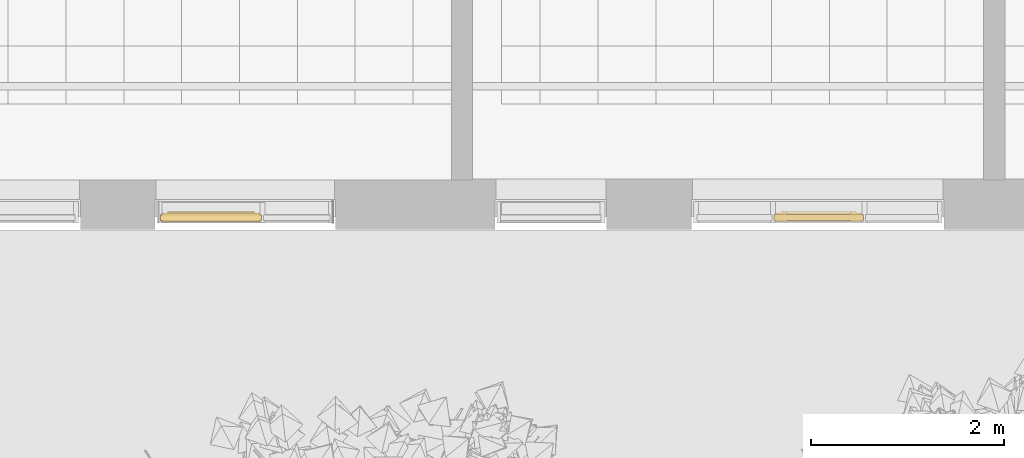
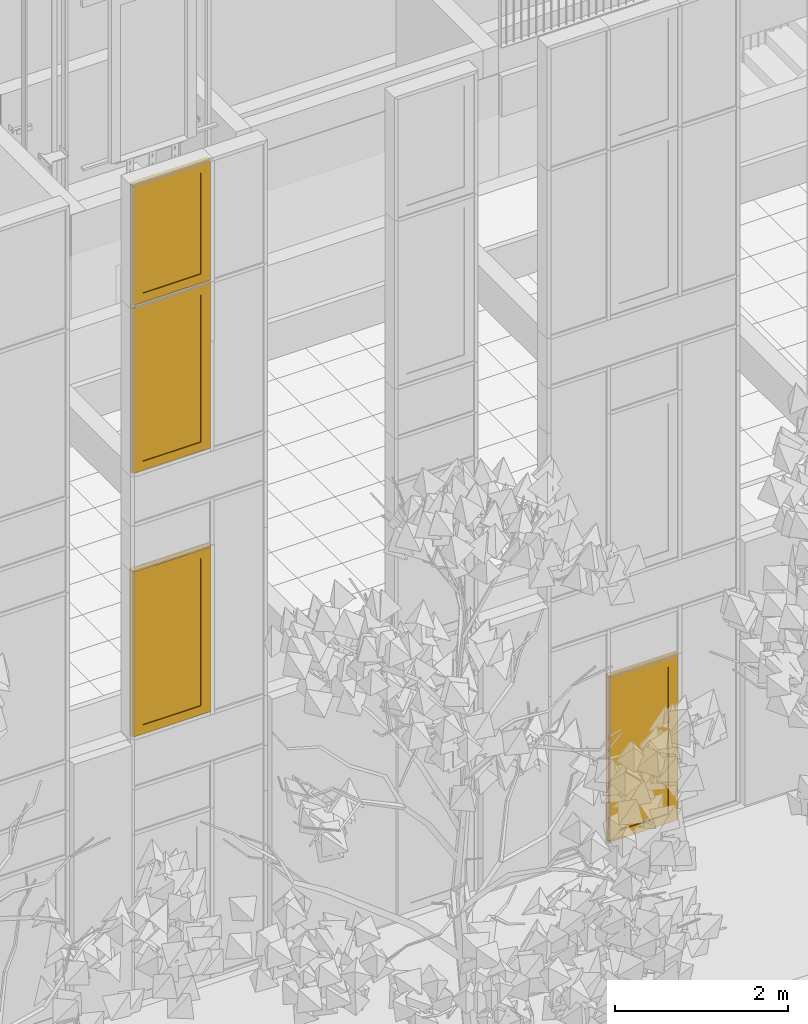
# One storey, part 145 of 246: 4 windows, 2 elements without a shape of their own.
"""IFC2X3 building model written with IfcOpenShell, lengths in millimetres."""

from ifc_helpers import new_model, entity, si_unit, converted_unit, derived_unit, money_unit, direction, frame, origin_with_axes, place, context, subcontext, project, spatial, open_shell, faceted_brep, surface_model, source, transform, mapped, material, material_list, type_object, element, aggregate, save


model = new_model("IFC2X3")

# Units and contexts
model_context = context("Model", 3, precision=0.01, world=origin_with_axes(), true_north=direction((0.0, 1.0)))
body_context = subcontext(model_context, "Body", "Model", "MODEL_VIEW")
ifc_project = project(units=[si_unit("LENGTHUNIT", "METRE", prefix="MILLI"), si_unit("AREAUNIT", "SQUARE_METRE"), si_unit("VOLUMEUNIT", "CUBIC_METRE"), converted_unit("PLANEANGLEUNIT", "DEGREE", entity("IfcPlaneAngleMeasure", 0.0174532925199), si_unit("PLANEANGLEUNIT", "RADIAN"), dimensions=[0, 0, 0, 0, 0, 0, 0]), si_unit("SOLIDANGLEUNIT", "STERADIAN"), money_unit("EUR"), converted_unit("TIMEUNIT", "Year", entity("IfcTimeMeasure", 31556926.0), si_unit("TIMEUNIT", "SECOND"), dimensions=[0, 0, 1, 0, 0, 0, 0]), si_unit("MASSUNIT", "GRAM", prefix="KILO"), si_unit("THERMODYNAMICTEMPERATUREUNIT", "DEGREE_CELSIUS"), si_unit("LUMINOUSINTENSITYUNIT", "LUMEN"), si_unit("ENERGYUNIT", "JOULE", prefix="MEGA"), derived_unit("THERMALCONDUCTANCEUNIT", [(si_unit("POWERUNIT", "WATT"), 1), (si_unit("LENGTHUNIT", "METRE"), -1), (si_unit("THERMODYNAMICTEMPERATUREUNIT", "KELVIN"), -1)]), derived_unit("SPECIFICHEATCAPACITYUNIT", [(si_unit("ENERGYUNIT", "JOULE"), 1), (si_unit("MASSUNIT", "GRAM", prefix="KILO"), -1), (si_unit("THERMODYNAMICTEMPERATUREUNIT", "KELVIN"), -1)]), derived_unit("MASSDENSITYUNIT", [(si_unit("MASSUNIT", "GRAM", prefix="KILO"), 1), (si_unit("VOLUMEUNIT", "CUBIC_METRE"), -1)])], contexts=[model_context])

# Site, building, storey
site_placement = place(None, origin_with_axes())
site = spatial("IfcSite", under=ifc_project, at=site_placement, Name="L.Koidula tn 11b", CompositionType="ELEMENT")
building_placement = place(site_placement, origin_with_axes())
building = spatial("IfcBuilding", under=site, at=building_placement, Name="Rakvere Riigigümnaasium", CompositionType="ELEMENT")
storey_placement = place(building_placement, origin_with_axes())
storey = spatial("IfcBuildingStorey", under=building, at=storey_placement, Name="1.korrus 0,00", CompositionType="ELEMENT", Elevation=0.0)

# Curtain wall, windows
curtain_wall_type = type_object("IfcCurtainWallType", Name="Curtain Wall Type", PredefinedType="NOTDEFINED")
curtain_wall_1_placement = place(storey_placement, frame((42948.5002114, 5111.45334637, -8.09717250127e-06), z_axis=(0.0, 0.0, 1.0), x_axis=(1.0, 0.0, 0.0)))
curtain_wall_1 = element("IfcCurtainWall", 1, at=curtain_wall_1_placement, inside=storey, type_object=curtain_wall_type, Name="KLF-05-2A")
ifc_material_1 = material(Name="Alumiiniumprofiil (RAL 7021)")
ifc_material_2 = material(Name="Klaaspakett 3x ribikardinatega")
ifc_material_list = material_list([ifc_material_1, ifc_material_2])
window_style_1 = type_object("IfcWindowStyle", Name="1046 x 2351 x 65", ConstructionType="NOTDEFINED", OperationType="NOTDEFINED", ParameterTakesPrecedence=False, Sizeable=False)
shared_shape_1 = source(origin_with_axes(), body_context, "Body", "SurfaceModel", [
    surface_model("IfcShellBasedSurfaceModel", [(50.0000055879, 24.9999850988, 43.5), (109.000005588, 83.9999850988, 43.5), (1010.9999851, 83.9999850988, 43.5), (1069.9999851, 24.9999850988, 43.5)], [open_shell([[[0, 1, 2, 3]]])]),
    surface_model("IfcShellBasedSurfaceModel", [(1069.9999851, 24.9999850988, 43.5), (1010.9999851, 83.9999850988, 43.5), (1010.9999851, 2291.0000149, 43.5), (1069.9999851, 2350.0000149, 43.5)], [open_shell([[[0, 1, 2, 3]]])]),
    surface_model("IfcShellBasedSurfaceModel", [(50.0000055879, 2350.0000149, 43.5), (1069.9999851, 2350.0000149, 43.5), (1010.9999851, 2291.0000149, 43.5), (109.000005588, 2291.0000149, 43.5)], [open_shell([[[0, 1, 2, 3]]])]),
    surface_model("IfcShellBasedSurfaceModel", [(50.0000055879, 24.9999850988, 43.5), (50.0000055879, 2350.0000149, 43.5), (109.000005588, 2291.0000149, 43.5), (109.000005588, 83.9999850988, 43.5)], [open_shell([[[0, 1, 2, 3]]])]),
    faceted_brep([(50.0000055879, 24.9999850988, -45.5), (1069.9999851, 24.9999850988, -45.5), (1069.9999851, 24.9999850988, 43.5), (50.0000055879, 24.9999850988, 43.5), (109.000005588, 83.9999850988, -45.5), (1010.9999851, 83.9999850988, -45.5), (1010.9999851, 83.9999850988, 43.5), (109.000005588, 83.9999850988, 43.5)], [[[0, 1, 2, 3]], [[0, 4, 5, 1]], [[1, 5, 6, 2]], [[3, 2, 6, 7]], [[4, 0, 3, 7]], [[5, 4, 7, 6]]]),
    faceted_brep([(1069.9999851, 24.9999850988, -45.5), (1069.9999851, 2350.0000149, -45.5), (1069.9999851, 2350.0000149, 43.5), (1069.9999851, 24.9999850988, 43.5), (1010.9999851, 83.9999850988, -45.5), (1010.9999851, 2291.0000149, -45.5), (1010.9999851, 2291.0000149, 43.5), (1010.9999851, 83.9999850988, 43.5)], [[[0, 1, 2, 3]], [[0, 4, 5, 1]], [[1, 5, 6, 2]], [[3, 2, 6, 7]], [[4, 0, 3, 7]], [[5, 4, 7, 6]]]),
    faceted_brep([(50.0000055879, 2350.0000149, -45.5), (109.000005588, 2291.0000149, -45.5), (109.000005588, 2291.0000149, 43.5), (50.0000055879, 2350.0000149, 43.5), (1069.9999851, 2350.0000149, -45.5), (1010.9999851, 2291.0000149, -45.5), (1010.9999851, 2291.0000149, 43.5), (1069.9999851, 2350.0000149, 43.5)], [[[0, 1, 2, 3]], [[0, 4, 5, 1]], [[1, 5, 6, 2]], [[3, 2, 6, 7]], [[4, 0, 3, 7]], [[5, 4, 7, 6]]]),
    faceted_brep([(50.0000055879, 24.9999850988, -45.5), (109.000005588, 83.9999850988, -45.5), (109.000005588, 83.9999850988, 43.5), (50.0000055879, 24.9999850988, 43.5), (50.0000055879, 2350.0000149, -45.5), (109.000005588, 2291.0000149, -45.5), (109.000005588, 2291.0000149, 43.5), (50.0000055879, 2350.0000149, 43.5)], [[[0, 1, 2, 3]], [[0, 4, 5, 1]], [[1, 5, 6, 2]], [[3, 2, 6, 7]], [[4, 0, 3, 7]], [[5, 4, 7, 6]]]),
    faceted_brep([(36.9999836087, 11.9999985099, -32.5), (1083.00000708, 11.9999985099, -32.5), (1083.00000708, 11.9999985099, 32.5), (36.9999836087, 11.9999985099, 32.5), (50.0000055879, 24.9999850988, -32.5), (1069.9999851, 24.9999850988, -32.5), (1069.9999851, 24.9999850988, 32.5), (50.0000055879, 24.9999850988, 32.5)], [[[0, 1, 2, 3]], [[0, 4, 5, 1]], [[1, 5, 6, 2]], [[3, 2, 6, 7]], [[4, 0, 3, 7]], [[5, 4, 7, 6]]]),
    faceted_brep([(1083.00000708, 11.9999985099, -32.5), (1083.00000708, 2363.00000149, -32.5), (1083.00000708, 2363.00000149, 32.5), (1083.00000708, 11.9999985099, 32.5), (1069.9999851, 24.9999850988, -32.5), (1069.9999851, 2350.0000149, -32.5), (1069.9999851, 2350.0000149, 32.5), (1069.9999851, 24.9999850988, 32.5)], [[[0, 1, 2, 3]], [[0, 4, 5, 1]], [[1, 5, 6, 2]], [[3, 2, 6, 7]], [[4, 0, 3, 7]], [[5, 4, 7, 6]]]),
    faceted_brep([(1083.00000708, 2363.00000149, -32.5), (36.9999836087, 2363.00000149, -32.5), (36.9999836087, 2363.00000149, 32.5), (1083.00000708, 2363.00000149, 32.5), (1069.9999851, 2350.0000149, -32.5), (50.0000055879, 2350.0000149, -32.5), (50.0000055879, 2350.0000149, 32.5), (1069.9999851, 2350.0000149, 32.5)], [[[0, 1, 2, 3]], [[0, 4, 5, 1]], [[1, 5, 6, 2]], [[3, 2, 6, 7]], [[4, 0, 3, 7]], [[5, 4, 7, 6]]]),
    faceted_brep([(36.9999836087, 2363.00000149, -32.5), (36.9999836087, 11.9999985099, -32.5), (36.9999836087, 11.9999985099, 32.5), (36.9999836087, 2363.00000149, 32.5), (50.0000055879, 2350.0000149, -32.5), (50.0000055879, 24.9999850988, -32.5), (50.0000055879, 24.9999850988, 32.5), (50.0000055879, 2350.0000149, 32.5)], [[[0, 1, 2, 3]], [[0, 4, 5, 1]], [[1, 5, 6, 2]], [[3, 2, 6, 7]], [[4, 0, 3, 7]], [[5, 4, 7, 6]]]),
    faceted_brep([(172.000005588, 146.999985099, 43.5), (172.000005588, 146.999985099, -56.5), (172.000005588, 2228.0000149, -56.5), (172.000005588, 2228.0000149, 43.5), (109.000005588, 83.9999850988, 43.5), (109.000005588, 83.9999850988, -56.5), (109.000005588, 2291.0000149, -56.5), (109.000005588, 2291.0000149, 43.5)], [[[0, 1, 2, 3]], [[4, 5, 1, 0]], [[1, 5, 6, 2]], [[3, 2, 6, 7]], [[0, 3, 7, 4]], [[7, 6, 5, 4]]]),
    faceted_brep([(1010.9999851, 83.9999850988, 43.5), (1010.9999851, 83.9999850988, -56.5), (1010.9999851, 2291.0000149, -56.5), (1010.9999851, 2291.0000149, 43.5), (947.999985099, 146.999985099, 43.5), (947.999985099, 146.999985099, -56.5), (947.999985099, 2228.0000149, -56.5), (947.999985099, 2228.0000149, 43.5)], [[[0, 1, 2, 3]], [[4, 5, 1, 0]], [[1, 5, 6, 2]], [[3, 2, 6, 7]], [[0, 3, 7, 4]], [[7, 6, 5, 4]]]),
    faceted_brep([(1010.9999851, 83.9999850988, 43.5), (1010.9999851, 83.9999850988, -56.5), (947.999985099, 146.999985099, -56.5), (947.999985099, 146.999985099, 43.5), (109.000005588, 83.9999850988, 43.5), (109.000005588, 83.9999850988, -56.5), (172.000005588, 146.999985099, -56.5), (172.000005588, 146.999985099, 43.5)], [[[0, 1, 2, 3]], [[4, 5, 1, 0]], [[1, 5, 6, 2]], [[3, 2, 6, 7]], [[0, 3, 7, 4]], [[7, 6, 5, 4]]]),
    faceted_brep([(109.000005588, 2291.0000149, 43.5), (109.000005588, 2291.0000149, -56.5), (172.000005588, 2228.0000149, -56.5), (172.000005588, 2228.0000149, 43.5), (1010.9999851, 2291.0000149, 43.5), (1010.9999851, 2291.0000149, -56.5), (947.999985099, 2228.0000149, -56.5), (947.999985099, 2228.0000149, 43.5)], [[[0, 1, 2, 3]], [[4, 5, 1, 0]], [[1, 5, 6, 2]], [[3, 2, 6, 7]], [[0, 3, 7, 4]], [[7, 6, 5, 4]]]),
    faceted_brep([(172.000005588, 146.999985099, 32.5), (172.000005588, 146.999985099, -32.5), (947.999985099, 146.999985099, -32.5), (947.999985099, 146.999985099, 32.5), (172.000005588, 2228.0000149, 32.5), (172.000005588, 2228.0000149, -32.5), (947.999985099, 2228.0000149, -32.5), (947.999985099, 2228.0000149, 32.5)], [[[0, 1, 2, 3]], [[4, 5, 1, 0]], [[1, 5, 6, 2]], [[3, 2, 6, 7]], [[0, 3, 7, 4]], [[7, 6, 5, 4]]]),
])
window_1_placement = place(curtain_wall_1_placement, frame((-582.333458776, 0.0, 4932.5), z_axis=(0.0, 0.0, 1.0), x_axis=(-1.0, 0.0, 0.0)))
window_1 = element("IfcWindow", 2, at=window_1_placement, type_object=window_style_1, material=ifc_material_list, Name="KLF-05-A-1", ObjectType="WINDOW", context=body_context, shape_type="MappedRepresentation", body=[
    mapped(shared_shape_1, transform((371.666628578, 0.0, -1187.5), x_axis=(-1.0, 0.0, 0.0), y_axis=(0.0, 0.0, 1.0), z_axis=(0.0, 1.0, 0.0))),
])
window_style_2 = type_object("IfcWindowStyle", Name="1046 x 2351 x 54", ConstructionType="NOTDEFINED", OperationType="NOTDEFINED", ParameterTakesPrecedence=False, Sizeable=False)
shared_shape_2 = source(origin_with_axes(), body_context, "Body", "SurfaceModel", [
    surface_model("IfcShellBasedSurfaceModel", [(50.0000055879, 24.9999850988, 38.0), (109.000005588, 83.9999850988, 38.0), (1010.9999851, 83.9999850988, 38.0), (1069.9999851, 24.9999850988, 38.0)], [open_shell([[[0, 1, 2, 3]]])]),
    surface_model("IfcShellBasedSurfaceModel", [(1069.9999851, 24.9999850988, 38.0), (1010.9999851, 83.9999850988, 38.0), (1010.9999851, 2291.0000149, 38.0), (1069.9999851, 2350.0000149, 38.0)], [open_shell([[[0, 1, 2, 3]]])]),
    surface_model("IfcShellBasedSurfaceModel", [(50.0000055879, 2350.0000149, 38.0), (1069.9999851, 2350.0000149, 38.0), (1010.9999851, 2291.0000149, 38.0), (109.000005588, 2291.0000149, 38.0)], [open_shell([[[0, 1, 2, 3]]])]),
    surface_model("IfcShellBasedSurfaceModel", [(50.0000055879, 24.9999850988, 38.0), (50.0000055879, 2350.0000149, 38.0), (109.000005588, 2291.0000149, 38.0), (109.000005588, 83.9999850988, 38.0)], [open_shell([[[0, 1, 2, 3]]])]),
    faceted_brep([(50.0000055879, 24.9999850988, -51.0), (1069.9999851, 24.9999850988, -51.0), (1069.9999851, 24.9999850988, 38.0), (50.0000055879, 24.9999850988, 38.0), (109.000005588, 83.9999850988, -51.0), (1010.9999851, 83.9999850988, -51.0), (1010.9999851, 83.9999850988, 38.0), (109.000005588, 83.9999850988, 38.0)], [[[0, 1, 2, 3]], [[0, 4, 5, 1]], [[1, 5, 6, 2]], [[3, 2, 6, 7]], [[4, 0, 3, 7]], [[5, 4, 7, 6]]]),
    faceted_brep([(1069.9999851, 24.9999850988, -51.0), (1069.9999851, 2350.0000149, -51.0), (1069.9999851, 2350.0000149, 38.0), (1069.9999851, 24.9999850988, 38.0), (1010.9999851, 83.9999850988, -51.0), (1010.9999851, 2291.0000149, -51.0), (1010.9999851, 2291.0000149, 38.0), (1010.9999851, 83.9999850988, 38.0)], [[[0, 1, 2, 3]], [[0, 4, 5, 1]], [[1, 5, 6, 2]], [[3, 2, 6, 7]], [[4, 0, 3, 7]], [[5, 4, 7, 6]]]),
    faceted_brep([(50.0000055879, 2350.0000149, -51.0), (109.000005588, 2291.0000149, -51.0), (109.000005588, 2291.0000149, 38.0), (50.0000055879, 2350.0000149, 38.0), (1069.9999851, 2350.0000149, -51.0), (1010.9999851, 2291.0000149, -51.0), (1010.9999851, 2291.0000149, 38.0), (1069.9999851, 2350.0000149, 38.0)], [[[0, 1, 2, 3]], [[0, 4, 5, 1]], [[1, 5, 6, 2]], [[3, 2, 6, 7]], [[4, 0, 3, 7]], [[5, 4, 7, 6]]]),
    faceted_brep([(50.0000055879, 24.9999850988, -51.0), (109.000005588, 83.9999850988, -51.0), (109.000005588, 83.9999850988, 38.0), (50.0000055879, 24.9999850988, 38.0), (50.0000055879, 2350.0000149, -51.0), (109.000005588, 2291.0000149, -51.0), (109.000005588, 2291.0000149, 38.0), (50.0000055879, 2350.0000149, 38.0)], [[[0, 1, 2, 3]], [[0, 4, 5, 1]], [[1, 5, 6, 2]], [[3, 2, 6, 7]], [[4, 0, 3, 7]], [[5, 4, 7, 6]]]),
    faceted_brep([(36.9999836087, 11.9999985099, -27.0), (1083.00000708, 11.9999985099, -27.0), (1083.00000708, 11.9999985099, 27.0), (36.9999836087, 11.9999985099, 27.0), (50.0000055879, 24.9999850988, -27.0), (1069.9999851, 24.9999850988, -27.0), (1069.9999851, 24.9999850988, 27.0), (50.0000055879, 24.9999850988, 27.0)], [[[0, 1, 2, 3]], [[0, 4, 5, 1]], [[1, 5, 6, 2]], [[3, 2, 6, 7]], [[4, 0, 3, 7]], [[5, 4, 7, 6]]]),
    faceted_brep([(1083.00000708, 11.9999985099, -27.0), (1083.00000708, 2363.00000149, -27.0), (1083.00000708, 2363.00000149, 27.0), (1083.00000708, 11.9999985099, 27.0), (1069.9999851, 24.9999850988, -27.0), (1069.9999851, 2350.0000149, -27.0), (1069.9999851, 2350.0000149, 27.0), (1069.9999851, 24.9999850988, 27.0)], [[[0, 1, 2, 3]], [[0, 4, 5, 1]], [[1, 5, 6, 2]], [[3, 2, 6, 7]], [[4, 0, 3, 7]], [[5, 4, 7, 6]]]),
    faceted_brep([(1083.00000708, 2363.00000149, -27.0), (36.9999836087, 2363.00000149, -27.0), (36.9999836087, 2363.00000149, 27.0), (1083.00000708, 2363.00000149, 27.0), (1069.9999851, 2350.0000149, -27.0), (50.0000055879, 2350.0000149, -27.0), (50.0000055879, 2350.0000149, 27.0), (1069.9999851, 2350.0000149, 27.0)], [[[0, 1, 2, 3]], [[0, 4, 5, 1]], [[1, 5, 6, 2]], [[3, 2, 6, 7]], [[4, 0, 3, 7]], [[5, 4, 7, 6]]]),
    faceted_brep([(36.9999836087, 2363.00000149, -27.0), (36.9999836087, 11.9999985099, -27.0), (36.9999836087, 11.9999985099, 27.0), (36.9999836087, 2363.00000149, 27.0), (50.0000055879, 2350.0000149, -27.0), (50.0000055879, 24.9999850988, -27.0), (50.0000055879, 24.9999850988, 27.0), (50.0000055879, 2350.0000149, 27.0)], [[[0, 1, 2, 3]], [[0, 4, 5, 1]], [[1, 5, 6, 2]], [[3, 2, 6, 7]], [[4, 0, 3, 7]], [[5, 4, 7, 6]]]),
    faceted_brep([(172.000005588, 146.999985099, 38.0), (172.000005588, 146.999985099, -62.0), (172.000005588, 2228.0000149, -62.0), (172.000005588, 2228.0000149, 38.0), (109.000005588, 83.9999850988, 38.0), (109.000005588, 83.9999850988, -62.0), (109.000005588, 2291.0000149, -62.0), (109.000005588, 2291.0000149, 38.0)], [[[0, 1, 2, 3]], [[4, 5, 1, 0]], [[1, 5, 6, 2]], [[3, 2, 6, 7]], [[0, 3, 7, 4]], [[7, 6, 5, 4]]]),
    faceted_brep([(1010.9999851, 83.9999850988, 38.0), (1010.9999851, 83.9999850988, -62.0), (1010.9999851, 2291.0000149, -62.0), (1010.9999851, 2291.0000149, 38.0), (947.999985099, 146.999985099, 38.0), (947.999985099, 146.999985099, -62.0), (947.999985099, 2228.0000149, -62.0), (947.999985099, 2228.0000149, 38.0)], [[[0, 1, 2, 3]], [[4, 5, 1, 0]], [[1, 5, 6, 2]], [[3, 2, 6, 7]], [[0, 3, 7, 4]], [[7, 6, 5, 4]]]),
    faceted_brep([(1010.9999851, 83.9999850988, 38.0), (1010.9999851, 83.9999850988, -62.0), (947.999985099, 146.999985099, -62.0), (947.999985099, 146.999985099, 38.0), (109.000005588, 83.9999850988, 38.0), (109.000005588, 83.9999850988, -62.0), (172.000005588, 146.999985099, -62.0), (172.000005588, 146.999985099, 38.0)], [[[0, 1, 2, 3]], [[4, 5, 1, 0]], [[1, 5, 6, 2]], [[3, 2, 6, 7]], [[0, 3, 7, 4]], [[7, 6, 5, 4]]]),
    faceted_brep([(109.000005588, 2291.0000149, 38.0), (109.000005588, 2291.0000149, -62.0), (172.000005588, 2228.0000149, -62.0), (172.000005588, 2228.0000149, 38.0), (1010.9999851, 2291.0000149, 38.0), (1010.9999851, 2291.0000149, -62.0), (947.999985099, 2228.0000149, -62.0), (947.999985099, 2228.0000149, 38.0)], [[[0, 1, 2, 3]], [[4, 5, 1, 0]], [[1, 5, 6, 2]], [[3, 2, 6, 7]], [[0, 3, 7, 4]], [[7, 6, 5, 4]]]),
    faceted_brep([(172.000005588, 146.999985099, 27.0), (172.000005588, 146.999985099, 11.0), (947.999985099, 146.999985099, 11.0), (947.999985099, 146.999985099, 27.0), (172.000005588, 2228.0000149, 27.0), (172.000005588, 2228.0000149, 11.0), (947.999985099, 2228.0000149, 11.0), (947.999985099, 2228.0000149, 27.0)], [[[0, 1, 2, 3]], [[4, 5, 1, 0]], [[1, 5, 6, 2]], [[3, 2, 6, 7]], [[0, 3, 7, 4]], [[7, 6, 5, 4]]]),
])
window_2_placement = place(curtain_wall_1_placement, frame((-403.166773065, 0.0, 8512.5), z_axis=(0.0, 0.0, 1.0), x_axis=(-1.0, 0.0, 0.0)))
window_2 = element("IfcWindow", 3, at=window_2_placement, type_object=window_style_2, material=ifc_material_list, Name="KLF-05-A-1", ObjectType="WINDOW", context=body_context, shape_type="MappedRepresentation", body=[
    mapped(shared_shape_2, transform((550.833314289, 0.0, -1047.5), x_axis=(-1.0, 0.0, 0.0), y_axis=(0.0, 0.0, 1.0), z_axis=(0.0, 1.0, 0.0))),
])
window_style_3 = type_object("IfcWindowStyle", Name="1046 x 1701 x 54", ConstructionType="NOTDEFINED", OperationType="NOTDEFINED", ParameterTakesPrecedence=False, Sizeable=False)
shared_shape_3 = source(origin_with_axes(), body_context, "Body", "SurfaceModel", [
    surface_model("IfcShellBasedSurfaceModel", [(49.9999937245, 24.9999968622, 38.0), (108.999993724, 83.9999968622, 38.0), (1011.00000652, 83.9999968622, 38.0), (1070.00000652, 24.9999968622, 38.0)], [open_shell([[[0, 1, 2, 3]]])]),
    surface_model("IfcShellBasedSurfaceModel", [(1070.00000652, 24.9999968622, 38.0), (1011.00000652, 83.9999968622, 38.0), (1011.00000652, 1641.0000474, 38.0), (1070.00000652, 1700.0000474, 38.0)], [open_shell([[[0, 1, 2, 3]]])]),
    surface_model("IfcShellBasedSurfaceModel", [(49.9999937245, 1700.0000474, 38.0), (1070.00000652, 1700.0000474, 38.0), (1011.00000652, 1641.0000474, 38.0), (108.999993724, 1641.0000474, 38.0)], [open_shell([[[0, 1, 2, 3]]])]),
    surface_model("IfcShellBasedSurfaceModel", [(49.9999937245, 24.9999968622, 38.0), (49.9999937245, 1700.0000474, 38.0), (108.999993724, 1641.0000474, 38.0), (108.999993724, 83.9999968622, 38.0)], [open_shell([[[0, 1, 2, 3]]])]),
    faceted_brep([(49.9999937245, 24.9999968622, -51.0), (1070.00000652, 24.9999968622, -51.0), (1070.00000652, 24.9999968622, 38.0), (49.9999937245, 24.9999968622, 38.0), (108.999993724, 83.9999968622, -51.0), (1011.00000652, 83.9999968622, -51.0), (1011.00000652, 83.9999968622, 38.0), (108.999993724, 83.9999968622, 38.0)], [[[0, 1, 2, 3]], [[0, 4, 5, 1]], [[1, 5, 6, 2]], [[3, 2, 6, 7]], [[4, 0, 3, 7]], [[5, 4, 7, 6]]]),
    faceted_brep([(1070.00000652, 24.9999968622, -51.0), (1070.00000652, 1700.0000474, -51.0), (1070.00000652, 1700.0000474, 38.0), (1070.00000652, 24.9999968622, 38.0), (1011.00000652, 83.9999968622, -51.0), (1011.00000652, 1641.0000474, -51.0), (1011.00000652, 1641.0000474, 38.0), (1011.00000652, 83.9999968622, 38.0)], [[[0, 1, 2, 3]], [[0, 4, 5, 1]], [[1, 5, 6, 2]], [[3, 2, 6, 7]], [[4, 0, 3, 7]], [[5, 4, 7, 6]]]),
    faceted_brep([(49.9999937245, 1700.0000474, -51.0), (108.999993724, 1641.0000474, -51.0), (108.999993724, 1641.0000474, 38.0), (49.9999937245, 1700.0000474, 38.0), (1070.00000652, 1700.0000474, -51.0), (1011.00000652, 1641.0000474, -51.0), (1011.00000652, 1641.0000474, 38.0), (1070.00000652, 1700.0000474, 38.0)], [[[0, 1, 2, 3]], [[0, 4, 5, 1]], [[1, 5, 6, 2]], [[3, 2, 6, 7]], [[4, 0, 3, 7]], [[5, 4, 7, 6]]]),
    faceted_brep([(49.9999937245, 24.9999968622, -51.0), (108.999993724, 83.9999968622, -51.0), (108.999993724, 83.9999968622, 38.0), (49.9999937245, 24.9999968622, 38.0), (49.9999937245, 1700.0000474, -51.0), (108.999993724, 1641.0000474, -51.0), (108.999993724, 1641.0000474, 38.0), (49.9999937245, 1700.0000474, 38.0)], [[[0, 1, 2, 3]], [[0, 4, 5, 1]], [[1, 5, 6, 2]], [[3, 2, 6, 7]], [[4, 0, 3, 7]], [[5, 4, 7, 6]]]),
    faceted_brep([(37.00000683, 12.0000099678, -27.0), (1082.99999341, 12.0000099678, -27.0), (1082.99999341, 12.0000099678, 27.0), (37.00000683, 12.0000099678, 27.0), (49.9999937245, 24.9999968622, -27.0), (1070.00000652, 24.9999968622, -27.0), (1070.00000652, 24.9999968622, 27.0), (49.9999937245, 24.9999968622, 27.0)], [[[0, 1, 2, 3]], [[0, 4, 5, 1]], [[1, 5, 6, 2]], [[3, 2, 6, 7]], [[4, 0, 3, 7]], [[5, 4, 7, 6]]]),
    faceted_brep([(1082.99999341, 12.0000099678, -27.0), (1082.99999341, 1713.0000343, -27.0), (1082.99999341, 1713.0000343, 27.0), (1082.99999341, 12.0000099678, 27.0), (1070.00000652, 24.9999968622, -27.0), (1070.00000652, 1700.0000474, -27.0), (1070.00000652, 1700.0000474, 27.0), (1070.00000652, 24.9999968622, 27.0)], [[[0, 1, 2, 3]], [[0, 4, 5, 1]], [[1, 5, 6, 2]], [[3, 2, 6, 7]], [[4, 0, 3, 7]], [[5, 4, 7, 6]]]),
    faceted_brep([(1082.99999341, 1713.0000343, -27.0), (37.00000683, 1713.0000343, -27.0), (37.00000683, 1713.0000343, 27.0), (1082.99999341, 1713.0000343, 27.0), (1070.00000652, 1700.0000474, -27.0), (49.9999937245, 1700.0000474, -27.0), (49.9999937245, 1700.0000474, 27.0), (1070.00000652, 1700.0000474, 27.0)], [[[0, 1, 2, 3]], [[0, 4, 5, 1]], [[1, 5, 6, 2]], [[3, 2, 6, 7]], [[4, 0, 3, 7]], [[5, 4, 7, 6]]]),
    faceted_brep([(37.00000683, 1713.0000343, -27.0), (37.00000683, 12.0000099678, -27.0), (37.00000683, 12.0000099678, 27.0), (37.00000683, 1713.0000343, 27.0), (49.9999937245, 1700.0000474, -27.0), (49.9999937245, 24.9999968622, -27.0), (49.9999937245, 24.9999968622, 27.0), (49.9999937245, 1700.0000474, 27.0)], [[[0, 1, 2, 3]], [[0, 4, 5, 1]], [[1, 5, 6, 2]], [[3, 2, 6, 7]], [[4, 0, 3, 7]], [[5, 4, 7, 6]]]),
    faceted_brep([(171.999993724, 146.999996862, 38.0), (171.999993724, 146.999996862, -62.0), (171.999993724, 1578.0000474, -62.0), (171.999993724, 1578.0000474, 38.0), (108.999993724, 83.9999968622, 38.0), (108.999993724, 83.9999968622, -62.0), (108.999993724, 1641.0000474, -62.0), (108.999993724, 1641.0000474, 38.0)], [[[0, 1, 2, 3]], [[4, 5, 1, 0]], [[1, 5, 6, 2]], [[3, 2, 6, 7]], [[0, 3, 7, 4]], [[7, 6, 5, 4]]]),
    faceted_brep([(1011.00000652, 83.9999968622, 38.0), (1011.00000652, 83.9999968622, -62.0), (1011.00000652, 1641.0000474, -62.0), (1011.00000652, 1641.0000474, 38.0), (948.00000652, 146.999996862, 38.0), (948.00000652, 146.999996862, -62.0), (948.00000652, 1578.0000474, -62.0), (948.00000652, 1578.0000474, 38.0)], [[[0, 1, 2, 3]], [[4, 5, 1, 0]], [[1, 5, 6, 2]], [[3, 2, 6, 7]], [[0, 3, 7, 4]], [[7, 6, 5, 4]]]),
    faceted_brep([(1011.00000652, 83.9999968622, 38.0), (1011.00000652, 83.9999968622, -62.0), (948.00000652, 146.999996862, -62.0), (948.00000652, 146.999996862, 38.0), (108.999993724, 83.9999968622, 38.0), (108.999993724, 83.9999968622, -62.0), (171.999993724, 146.999996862, -62.0), (171.999993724, 146.999996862, 38.0)], [[[0, 1, 2, 3]], [[4, 5, 1, 0]], [[1, 5, 6, 2]], [[3, 2, 6, 7]], [[0, 3, 7, 4]], [[7, 6, 5, 4]]]),
    faceted_brep([(108.999993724, 1641.0000474, 38.0), (108.999993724, 1641.0000474, -62.0), (171.999993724, 1578.0000474, -62.0), (171.999993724, 1578.0000474, 38.0), (1011.00000652, 1641.0000474, 38.0), (1011.00000652, 1641.0000474, -62.0), (948.00000652, 1578.0000474, -62.0), (948.00000652, 1578.0000474, 38.0)], [[[0, 1, 2, 3]], [[4, 5, 1, 0]], [[1, 5, 6, 2]], [[3, 2, 6, 7]], [[0, 3, 7, 4]], [[7, 6, 5, 4]]]),
    faceted_brep([(171.999993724, 146.999996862, 27.0), (171.999993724, 146.999996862, 11.0), (948.00000652, 146.999996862, 11.0), (948.00000652, 146.999996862, 27.0), (171.999993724, 1578.0000474, 27.0), (171.999993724, 1578.0000474, 11.0), (948.00000652, 1578.0000474, 11.0), (948.00000652, 1578.0000474, 27.0)], [[[0, 1, 2, 3]], [[4, 5, 1, 0]], [[1, 5, 6, 2]], [[3, 2, 6, 7]], [[0, 3, 7, 4]], [[7, 6, 5, 4]]]),
])
window_3_placement = place(curtain_wall_1_placement, frame((-406.500087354, 0.0, 10715.0000206), z_axis=(0.0, 0.0, 1.0), x_axis=(-1.0, 0.0, 0.0)))
window_3 = element("IfcWindow", 4, at=window_3_placement, type_object=window_style_3, material=ifc_material_list, Name="KLF-05-A-3", ObjectType="WINDOW", context=body_context, shape_type="MappedRepresentation", body=[
    mapped(shared_shape_3, transform((547.5, 0.0, -875.000020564), x_axis=(-1.0, 0.0, 0.0), y_axis=(0.0, 0.0, 1.0), z_axis=(0.0, 1.0, 0.0))),
])
aggregate(curtain_wall_1, [window_1, window_2, window_3])

# Curtain wall, window
curtain_wall_2_placement = place(storey_placement, frame((48860.000217, 5111.43278481, -1.61944597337e-05), z_axis=(0.0, 0.0, 1.0), x_axis=(1.0, 0.0, 0.0)))
curtain_wall_2 = element("IfcCurtainWall", 5, at=curtain_wall_2_placement, inside=storey, type_object=curtain_wall_type, Name="KLF-05-3A")
window_style_4 = type_object("IfcWindowStyle", Name="926 x 2351 x 54", ConstructionType="NOTDEFINED", OperationType="NOTDEFINED", ParameterTakesPrecedence=False, Sizeable=False)
shared_shape_4 = source(origin_with_axes(), body_context, "Body", "SurfaceModel", [
    surface_model("IfcShellBasedSurfaceModel", [(25.0, 50.0, 38.0), (84.0, 109.0, 38.0), (866.0, 109.0, 38.0), (925.0, 50.0, 38.0)], [open_shell([[[0, 1, 2, 3]]])]),
    surface_model("IfcShellBasedSurfaceModel", [(925.0, 50.0, 38.0), (866.0, 109.0, 38.0), (866.0, 2316.0, 38.0), (925.0, 2375.0, 38.0)], [open_shell([[[0, 1, 2, 3]]])]),
    surface_model("IfcShellBasedSurfaceModel", [(25.0, 2375.0, 38.0), (925.0, 2375.0, 38.0), (866.0, 2316.0, 38.0), (84.0, 2316.0, 38.0)], [open_shell([[[0, 1, 2, 3]]])]),
    surface_model("IfcShellBasedSurfaceModel", [(25.0, 50.0, 38.0), (25.0, 2375.0, 38.0), (84.0, 2316.0, 38.0), (84.0, 109.0, 38.0)], [open_shell([[[0, 1, 2, 3]]])]),
    faceted_brep([(25.0, 50.0, -51.0), (925.0, 50.0, -51.0), (925.0, 50.0, 38.0), (25.0, 50.0, 38.0), (84.0, 109.0, -51.0), (866.0, 109.0, -51.0), (866.0, 109.0, 38.0), (84.0, 109.0, 38.0)], [[[0, 1, 2, 3]], [[0, 4, 5, 1]], [[1, 5, 6, 2]], [[3, 2, 6, 7]], [[4, 0, 3, 7]], [[5, 4, 7, 6]]]),
    faceted_brep([(925.0, 50.0, -51.0), (925.0, 2375.0, -51.0), (925.0, 2375.0, 38.0), (925.0, 50.0, 38.0), (866.0, 109.0, -51.0), (866.0, 2316.0, -51.0), (866.0, 2316.0, 38.0), (866.0, 109.0, 38.0)], [[[0, 1, 2, 3]], [[0, 4, 5, 1]], [[1, 5, 6, 2]], [[3, 2, 6, 7]], [[4, 0, 3, 7]], [[5, 4, 7, 6]]]),
    faceted_brep([(25.0, 2375.0, -51.0), (84.0, 2316.0, -51.0), (84.0, 2316.0, 38.0), (25.0, 2375.0, 38.0), (925.0, 2375.0, -51.0), (866.0, 2316.0, -51.0), (866.0, 2316.0, 38.0), (925.0, 2375.0, 38.0)], [[[0, 1, 2, 3]], [[0, 4, 5, 1]], [[1, 5, 6, 2]], [[3, 2, 6, 7]], [[4, 0, 3, 7]], [[5, 4, 7, 6]]]),
    faceted_brep([(25.0, 50.0, -51.0), (84.0, 109.0, -51.0), (84.0, 109.0, 38.0), (25.0, 50.0, 38.0), (25.0, 2375.0, -51.0), (84.0, 2316.0, -51.0), (84.0, 2316.0, 38.0), (25.0, 2375.0, 38.0)], [[[0, 1, 2, 3]], [[0, 4, 5, 1]], [[1, 5, 6, 2]], [[3, 2, 6, 7]], [[4, 0, 3, 7]], [[5, 4, 7, 6]]]),
    faceted_brep([(12.0, 37.0, -27.0), (938.0, 37.0, -27.0), (938.0, 37.0, 27.0), (12.0, 37.0, 27.0), (25.0, 50.0, -27.0), (925.0, 50.0, -27.0), (925.0, 50.0, 27.0), (25.0, 50.0, 27.0)], [[[0, 1, 2, 3]], [[0, 4, 5, 1]], [[1, 5, 6, 2]], [[3, 2, 6, 7]], [[4, 0, 3, 7]], [[5, 4, 7, 6]]]),
    faceted_brep([(938.0, 37.0, -27.0), (938.0, 2388.0, -27.0), (938.0, 2388.0, 27.0), (938.0, 37.0, 27.0), (925.0, 50.0, -27.0), (925.0, 2375.0, -27.0), (925.0, 2375.0, 27.0), (925.0, 50.0, 27.0)], [[[0, 1, 2, 3]], [[0, 4, 5, 1]], [[1, 5, 6, 2]], [[3, 2, 6, 7]], [[4, 0, 3, 7]], [[5, 4, 7, 6]]]),
    faceted_brep([(938.0, 2388.0, -27.0), (12.0, 2388.0, -27.0), (12.0, 2388.0, 27.0), (938.0, 2388.0, 27.0), (925.0, 2375.0, -27.0), (25.0, 2375.0, -27.0), (25.0, 2375.0, 27.0), (925.0, 2375.0, 27.0)], [[[0, 1, 2, 3]], [[0, 4, 5, 1]], [[1, 5, 6, 2]], [[3, 2, 6, 7]], [[4, 0, 3, 7]], [[5, 4, 7, 6]]]),
    faceted_brep([(12.0, 2388.0, -27.0), (12.0, 37.0, -27.0), (12.0, 37.0, 27.0), (12.0, 2388.0, 27.0), (25.0, 2375.0, -27.0), (25.0, 50.0, -27.0), (25.0, 50.0, 27.0), (25.0, 2375.0, 27.0)], [[[0, 1, 2, 3]], [[0, 4, 5, 1]], [[1, 5, 6, 2]], [[3, 2, 6, 7]], [[4, 0, 3, 7]], [[5, 4, 7, 6]]]),
    faceted_brep([(147.0, 172.0, 38.0), (147.0, 172.0, -62.0), (147.0, 2253.0, -62.0), (147.0, 2253.0, 38.0), (84.0, 109.0, 38.0), (84.0, 109.0, -62.0), (84.0, 2316.0, -62.0), (84.0, 2316.0, 38.0)], [[[0, 1, 2, 3]], [[4, 5, 1, 0]], [[1, 5, 6, 2]], [[3, 2, 6, 7]], [[0, 3, 7, 4]], [[7, 6, 5, 4]]]),
    faceted_brep([(866.0, 109.0, 38.0), (866.0, 109.0, -62.0), (866.0, 2316.0, -62.0), (866.0, 2316.0, 38.0), (803.0, 172.0, 38.0), (803.0, 172.0, -62.0), (803.0, 2253.0, -62.0), (803.0, 2253.0, 38.0)], [[[0, 1, 2, 3]], [[4, 5, 1, 0]], [[1, 5, 6, 2]], [[3, 2, 6, 7]], [[0, 3, 7, 4]], [[7, 6, 5, 4]]]),
    faceted_brep([(866.0, 109.0, 38.0), (866.0, 109.0, -62.0), (803.0, 172.0, -62.0), (803.0, 172.0, 38.0), (84.0, 109.0, 38.0), (84.0, 109.0, -62.0), (147.0, 172.0, -62.0), (147.0, 172.0, 38.0)], [[[0, 1, 2, 3]], [[4, 5, 1, 0]], [[1, 5, 6, 2]], [[3, 2, 6, 7]], [[0, 3, 7, 4]], [[7, 6, 5, 4]]]),
    faceted_brep([(84.0, 2316.0, 38.0), (84.0, 2316.0, -62.0), (147.0, 2253.0, -62.0), (147.0, 2253.0, 38.0), (866.0, 2316.0, 38.0), (866.0, 2316.0, -62.0), (803.0, 2253.0, -62.0), (803.0, 2253.0, 38.0)], [[[0, 1, 2, 3]], [[4, 5, 1, 0]], [[1, 5, 6, 2]], [[3, 2, 6, 7]], [[0, 3, 7, 4]], [[7, 6, 5, 4]]]),
    faceted_brep([(147.0, 172.0, 27.0), (147.0, 172.0, -38.0), (803.0, 172.0, -38.0), (803.0, 172.0, 27.0), (147.0, 2253.0, 27.0), (147.0, 2253.0, -38.0), (803.0, 2253.0, -38.0), (803.0, 2253.0, 27.0)], [[[0, 1, 2, 3]], [[4, 5, 1, 0]], [[1, 5, 6, 2]], [[3, 2, 6, 7]], [[0, 3, 7, 4]], [[7, 6, 5, 4]]]),
])
window_4_placement = place(curtain_wall_2_placement, frame((0.0, 0.0, 1200.0), z_axis=(0.0, 0.0, 1.0), x_axis=(-0.999999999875, 1.58166009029e-05, 0.0)))
window_4 = element("IfcWindow", 6, at=window_4_placement, type_object=window_style_4, material=ifc_material_list, Name="KLF-05-A-2", ObjectType="WINDOW", context=body_context, shape_type="MappedRepresentation", body=[
    mapped(shared_shape_4, transform((475.0, 0.0, -1200.0), x_axis=(-1.0, 0.0, 0.0), y_axis=(0.0, 0.0, 1.0), z_axis=(0.0, 1.0, 0.0))),
])
aggregate(curtain_wall_2, [window_4])

save(model, "model.ifc")
